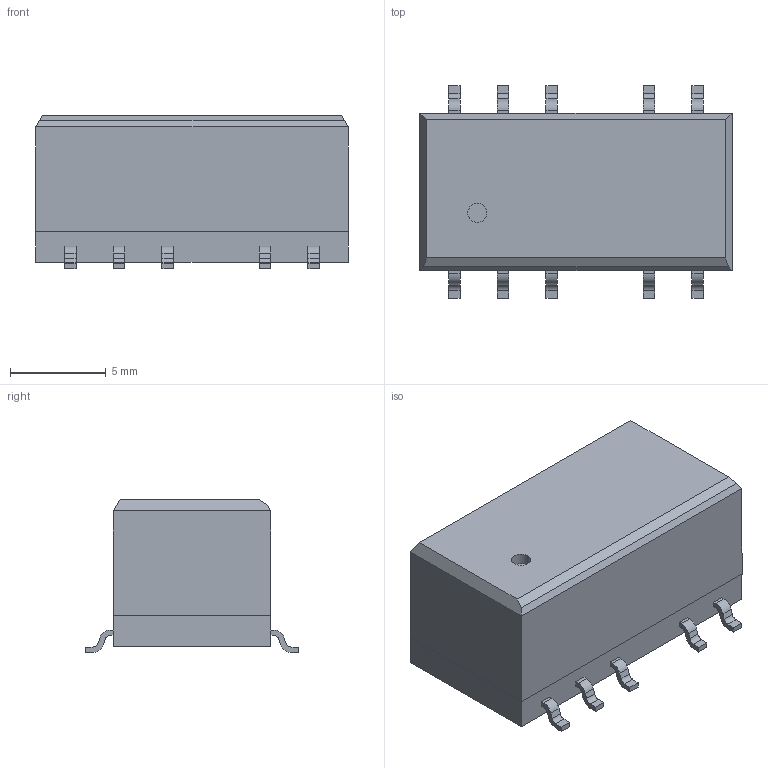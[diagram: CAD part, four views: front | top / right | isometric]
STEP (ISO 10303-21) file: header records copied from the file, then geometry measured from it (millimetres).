
FILE_DESCRIPTION(/* description */ (''),/* implementation_level */ '2;1');
FILE_NAME(/* name */ 'C:\Users\Calliope\Desktop\MS+水洗孔3D\MSLU300-W 3D(TES 1V).stp',/* time_stamp */ '2016-03-17T13:47:13+08:00',/* author */ ('Calliope'),/* organization */ (''),/* preprocessor_version */ 'ST-DEVELOPER v15.6',/* originating_system */ 'Autodesk Inventor 2015',/* authorisation */ '');
FILE_SCHEMA (('AUTOMOTIVE_DESIGN { 1 0 10303 214 3 1 1 }'));
Length unit declared in the file: millimetre
Products named in the file (3): MSLU300 Header; MSLU300-W Cover; MSLU300
Assembly tree (2 placements, depth 2):
  MSLU300
    MSLU300 Header
    MSLU300-W Cover
Bounding box: 16.3 x 11.1 x 8 mm (x, y, z)
Volume: 681.8 mm3; surface area: 1314.6 mm2
Topology: 2 solids, 2 shells, 215 faces, 558 edges, 371 vertices
Faces by surface type: plane 173, cylinder 42
Full cylindrical faces by diameter (mm): 1 x2
Entity records: 6562 total; most frequent: CARTESIAN_POINT 1145, ORIENTED_EDGE 1110, DIRECTION 1079, EDGE_CURVE 555, LINE 471, VECTOR 471, VERTEX_POINT 370, AXIS2_PLACEMENT_3D 304
